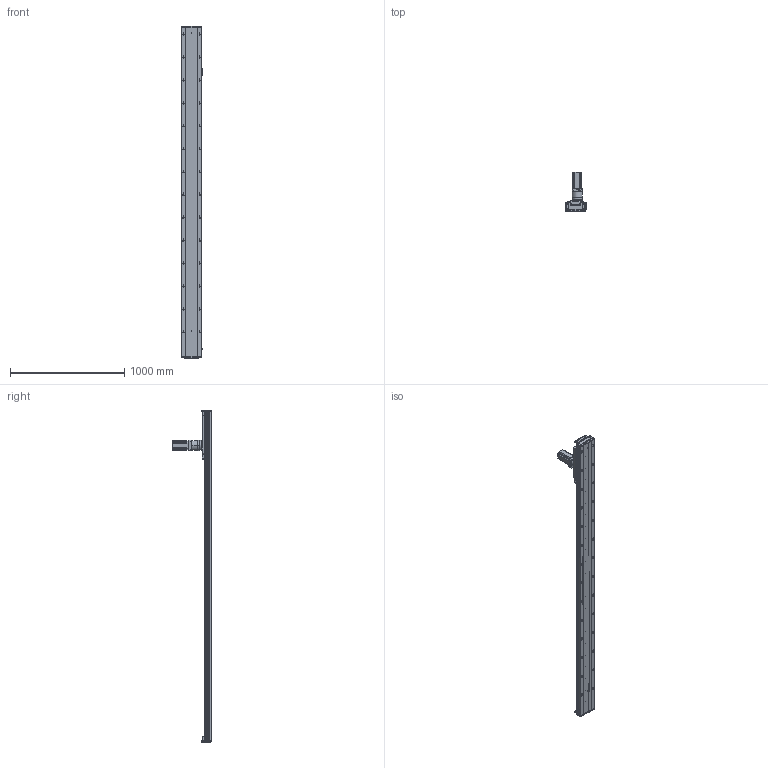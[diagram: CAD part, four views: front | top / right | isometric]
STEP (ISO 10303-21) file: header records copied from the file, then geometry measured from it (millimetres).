
FILE_DESCRIPTION (( 'STEP AP203' ), '1' );
FILE_NAME ('RY170-C-1000-UK.SLDASM_2400.step', '2021-03-03T00:47:33', ( '盈信电脑' ), ( '东莞市道滘镇水果街19号' ), 'SwSTEP 2.0', 'SolidWorks 2012', '' );
FILE_SCHEMA (( 'CONFIG_CONTROL_DESIGN' ));
Products named in the file (13): RY170-C-1000-UK.SLDASM_2400; RY170-喘沭滅袉蝶輸; TF080等撰; 左旋斜齿齿轮_M2_22齿_内孔20; RY170-喘沭賑輸; RY170-喘謫萇儂覃誹啣; RY170外置感应片(200共用）; 怢湛750W萇儂ㄗ80遺ㄘ; 覜茼ん672; 絳寢賑輸EGH20CA; RY170-1000齿条模组型材底座_2400; RY170-1000-喘沭耀郪絳寢EGH20CA_2400; RY170綴裔啣ㄗ蜊秶ㄘ
Assembly tree (22 placements, depth 2):
  RY170-C-1000-UK.SLDASM_2400
    RY170-1000齿条模组型材底座_2400
    絳寢賑輸EGH20CA  x6
    RY170-1000-喘沭耀郪絳寢EGH20CA_2400  x2
    RY170綴裔啣ㄗ蜊秶ㄘ  x2
    覜茼ん672  x3
    RY170外置感应片(200共用）
    RY170-喘謫萇儂覃誹啣
    怢湛750W萇儂ㄗ80遺ㄘ
    RY170-喘沭滅袉蝶輸  x2
    TF080等撰
    左旋斜齿齿轮_M2_22齿_内孔20
    RY170-喘沭賑輸
Bounding box: 188.7 x 343.5 x 2900 mm (x, y, z)
Volume: 15125610.8 mm3; surface area: 3838043.5 mm2
Topology: 24 solids, 24 shells, 4571 faces, 12852 edges, 8213 vertices
Faces by surface type: plane 2181, cylinder 1974, cone 362, bspline 50, torus 4
Entity records: 103530 total; most frequent: CARTESIAN_POINT 24579, ORIENTED_EDGE 16502, DIRECTION 15982, EDGE_CURVE 8251, AXIS2_PLACEMENT_3D 5921, VERTEX_POINT 5365, LINE 4140, VECTOR 4140
